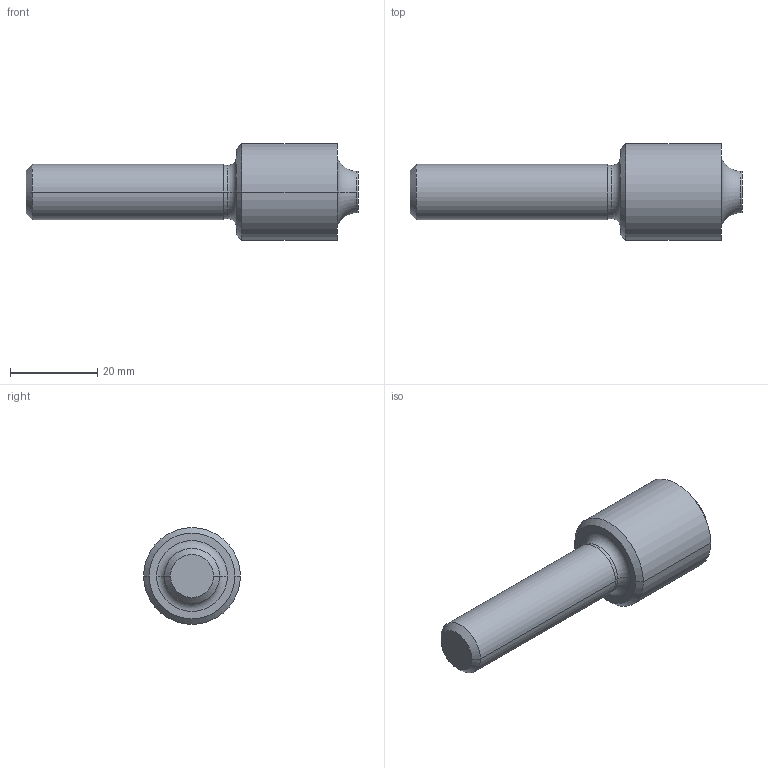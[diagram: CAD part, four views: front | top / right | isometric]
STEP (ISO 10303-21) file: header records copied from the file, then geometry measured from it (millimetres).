
FILE_DESCRIPTION (( 'STEP AP214' ), '1' );
FILE_NAME ('2_NEW_EQ237012.STEP', '2022-01-28T01:53:49', ( 'USER' ), ( '' ), 'SwSTEP 2.0', 'SolidWorks 2014', '' );
FILE_SCHEMA (( 'AUTOMOTIVE_DESIGN' ));
Length unit declared in the file: millimetre
Products named in the file (1): 2_NEW_EQ237012
Bounding box: 76.2 x 22.23 x 22.23 mm (x, y, z)
Volume: 15496.2 mm3; surface area: 4312.1 mm2
Topology: 1 solids, 1 shells, 21 faces, 40 edges, 24 vertices
Faces by surface type: cylinder 8, plane 5, cone 4, torus 4
Entity records: 572 total; most frequent: DIRECTION 112, CARTESIAN_POINT 86, ORIENTED_EDGE 80, AXIS2_PLACEMENT_3D 50, EDGE_CURVE 40, CIRCLE 28, EDGE_LOOP 24, VERTEX_POINT 24
